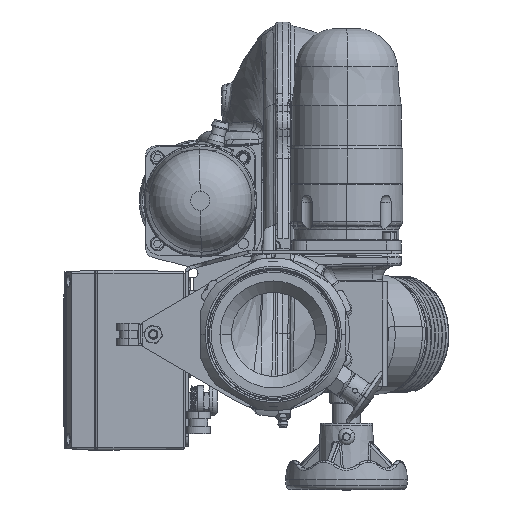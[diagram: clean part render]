
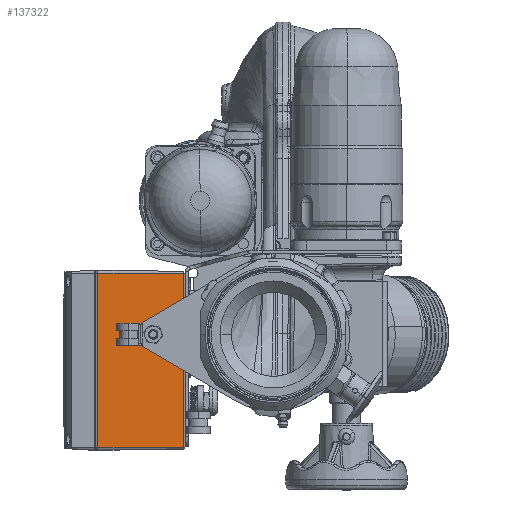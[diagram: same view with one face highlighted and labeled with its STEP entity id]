
A CAD part, front view. The second image highlights one B-rep face of the part: STEP entity #137322.
In plain terms, the highlighted planar face has unit normal (0.014, -1, 0).
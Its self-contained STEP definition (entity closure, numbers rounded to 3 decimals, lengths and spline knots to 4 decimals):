
#5143 = CARTESIAN_POINT ( 'NONE',  ( -2.6018, -0.917, 1.6032 ) ) ;
#12514 = VERTEX_POINT ( 'NONE', #170368 ) ;
#21267 = CARTESIAN_POINT ( 'NONE',  ( -4.8476, -0.9483, -2.9568 ) ) ;
#27538 = EDGE_CURVE ( 'NONE', #141550, #91493, #121722, .T. ) ;
#27799 = EDGE_CURVE ( 'NONE', #68845, #12514, #37218, .T. ) ;
#29039 = CARTESIAN_POINT ( 'NONE',  ( -4.9186, -0.9493, -2.9568 ) ) ;
#30418 = CARTESIAN_POINT ( 'NONE',  ( -4.8476, -0.9483, -2.9568 ) ) ;
#32629 = DIRECTION ( 'NONE',  ( -1., -0.014, 0. ) ) ;
#37218 = LINE ( 'NONE', #5143, #110368 ) ;
#42883 = ORIENTED_EDGE ( 'NONE', *, *, #27799, .T. ) ;
#43461 = ORIENTED_EDGE ( 'NONE', *, *, #27538, .T. ) ;
#44136 = CARTESIAN_POINT ( 'NONE',  ( -2.6018, -0.917, -2.9568 ) ) ;
#46815 = EDGE_CURVE ( 'NONE', #68845, #91493, #103453, .T. ) ;
#52907 = AXIS2_PLACEMENT_3D ( 'NONE', #125364, #66593, #168130 ) ;
#66593 = DIRECTION ( 'NONE',  ( 0.014, -1., 0. ) ) ;
#68845 = VERTEX_POINT ( 'NONE', #44136 ) ;
#69193 = VECTOR ( 'NONE', #107441, 39.3701 ) ;
#71041 = ORIENTED_EDGE ( 'NONE', *, *, #94330, .T. ) ;
#75997 = VECTOR ( 'NONE', #86463, 39.3701 ) ;
#76047 = CARTESIAN_POINT ( 'NONE',  ( -4.9186, -0.9493, 1.6032 ) ) ;
#82501 = PLANE ( 'NONE',  #52907 ) ;
#86463 = DIRECTION ( 'NONE',  ( -1., -0.014, 0. ) ) ;
#86578 = EDGE_LOOP ( 'NONE', ( #153251, #42883, #71041, #43461 ) ) ;
#91493 = VERTEX_POINT ( 'NONE', #30418 ) ;
#94330 = EDGE_CURVE ( 'NONE', #12514, #141550, #95485, .T. ) ;
#95485 = LINE ( 'NONE', #76047, #102287 ) ;
#102287 = VECTOR ( 'NONE', #32629, 39.3701 ) ;
#103453 = LINE ( 'NONE', #29039, #75997 ) ;
#105959 = DIRECTION ( 'NONE',  ( 0., 0., 1. ) ) ;
#107441 = DIRECTION ( 'NONE',  ( 0., 0., -1. ) ) ;
#110368 = VECTOR ( 'NONE', #105959, 39.3701 ) ;
#115877 = CARTESIAN_POINT ( 'NONE',  ( -4.8476, -0.9483, 1.6032 ) ) ;
#121722 = LINE ( 'NONE', #21267, #69193 ) ;
#125364 = CARTESIAN_POINT ( 'NONE',  ( -4.9186, -0.9493, -2.9568 ) ) ;
#137322 = ADVANCED_FACE ( 'NONE', ( #152500 ), #82501, .T. ) ;
#141550 = VERTEX_POINT ( 'NONE', #115877 ) ;
#152500 = FACE_OUTER_BOUND ( 'NONE', #86578, .T. ) ;
#153251 = ORIENTED_EDGE ( 'NONE', *, *, #46815, .F. ) ;
#168130 = DIRECTION ( 'NONE',  ( 1., 0.014, 0. ) ) ;
#170368 = CARTESIAN_POINT ( 'NONE',  ( -2.6018, -0.917, 1.6032 ) ) ;
